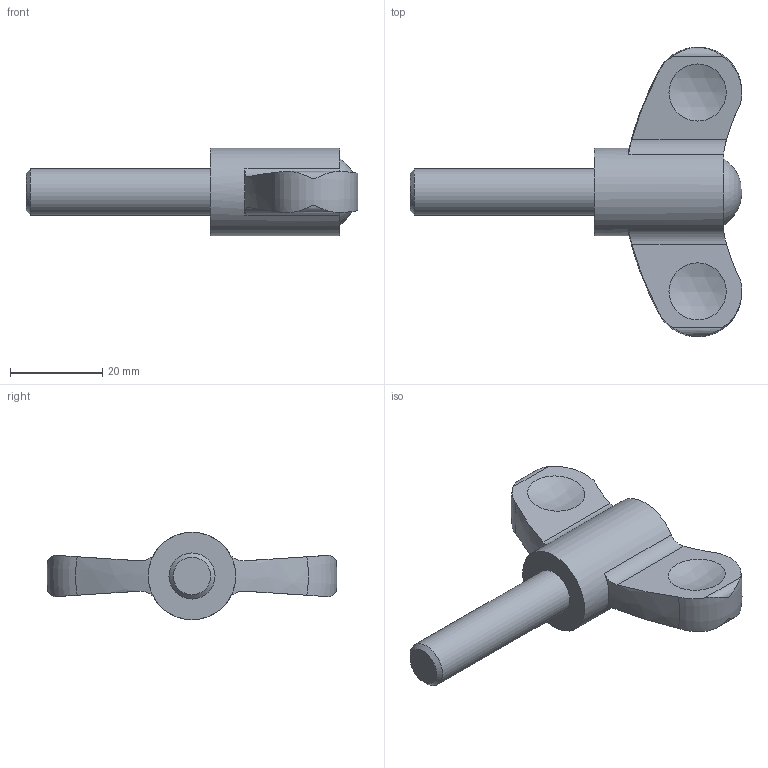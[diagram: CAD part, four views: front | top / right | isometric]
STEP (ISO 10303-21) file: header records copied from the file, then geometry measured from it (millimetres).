
FILE_DESCRIPTION( ( 'STEP AP203' ), '1' );
FILE_NAME( 'C:/Temp/Ganter_Step_05_03_2020/data/2_2/gn_633/Wing nut GN 633-63-M10-40-DBL.stp', '2020-03-05T12:21:14', ( 'License CC BY-ND 4.0' ), ( 'CADENAS' ), ' ', 'PARTsolutions', ' ' );
FILE_SCHEMA( ( 'CONFIG_CONTROL_DESIGN' ) );
Length unit declared in the file: millimetre
Products named in the file (1): _Wing nut GN 633-63-M10-40-DBL
Bounding box: 72 x 62.9 x 19 mm (x, y, z)
Volume: 17305.9 mm3; surface area: 5778.6 mm2
Topology: 1 solids, 1 shells, 28 faces, 72 edges, 50 vertices
Faces by surface type: cylinder 10, plane 6, sphere 6, bspline 3, torus 2, cone 1
Full cylindrical faces by diameter (mm): 10 x1, 19 x1
Entity records: 1177 total; most frequent: CARTESIAN_POINT 535, ORIENTED_EDGE 124, DIRECTION 108, EDGE_CURVE 62, AXIS2_PLACEMENT_3D 48, VERTEX_POINT 47, EDGE_LOOP 38, FACE_OUTER_BOUND 32
